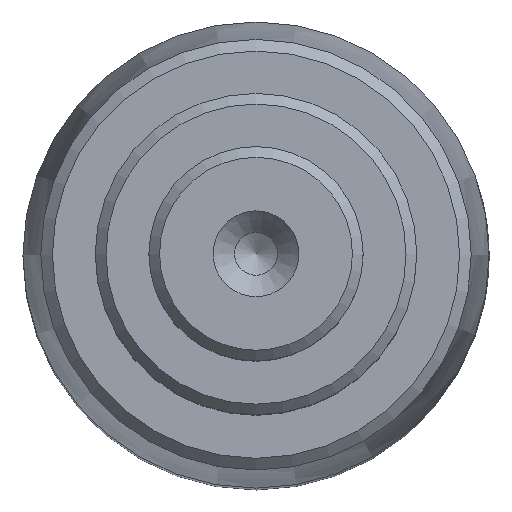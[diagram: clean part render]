
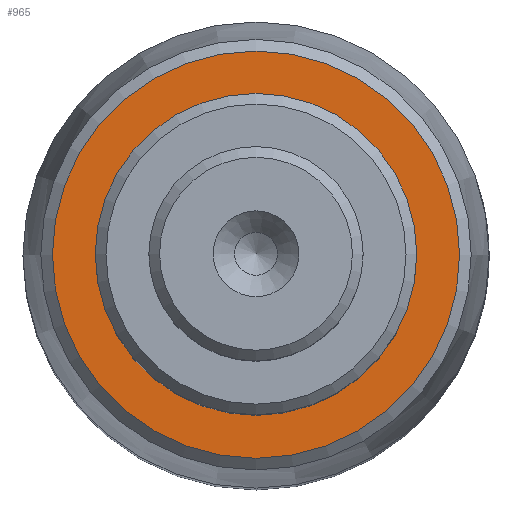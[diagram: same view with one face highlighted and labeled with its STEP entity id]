
A CAD part, top view. The second image highlights one B-rep face of the part: STEP entity #965.
In plain terms, the highlighted planar face has unit normal (0, 0, 1).
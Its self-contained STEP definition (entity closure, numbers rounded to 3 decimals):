
#556=FACE_BOUND('',#646,.T.);
#565=PLANE('',#1036);
#616=FACE_OUTER_BOUND('',#645,.T.);
#645=EDGE_LOOP('',(#901));
#646=EDGE_LOOP('',(#902));
#724=CIRCLE('',#1033,9.5);
#726=CIRCLE('',#1037,7.5);
#763=VERTEX_POINT('',#1384);
#765=VERTEX_POINT('',#1392);
#811=EDGE_CURVE('',#763,#763,#724,.T.);
#814=EDGE_CURVE('',#765,#765,#726,.T.);
#901=ORIENTED_EDGE('',*,*,#811,.F.);
#902=ORIENTED_EDGE('',*,*,#814,.T.);
#965=ADVANCED_FACE('',(#616,#556),#565,.T.);
#1033=AXIS2_PLACEMENT_3D('',#1386,#1170,#1171);
#1036=AXIS2_PLACEMENT_3D('',#1391,#1177,#1178);
#1037=AXIS2_PLACEMENT_3D('',#1393,#1179,#1180);
#1170=DIRECTION('center_axis',(0.,0.,-1.));
#1171=DIRECTION('ref_axis',(-1.,0.,0.));
#1177=DIRECTION('center_axis',(0.,0.,1.));
#1178=DIRECTION('ref_axis',(1.,0.,0.));
#1179=DIRECTION('center_axis',(0.,0.,-1.));
#1180=DIRECTION('ref_axis',(-1.,0.,0.));
#1384=CARTESIAN_POINT('',(9.5,0.,105.));
#1386=CARTESIAN_POINT('Origin',(0.,0.,105.));
#1391=CARTESIAN_POINT('Origin',(0.,0.,105.));
#1392=CARTESIAN_POINT('',(7.5,0.,105.));
#1393=CARTESIAN_POINT('Origin',(0.,0.,105.));
